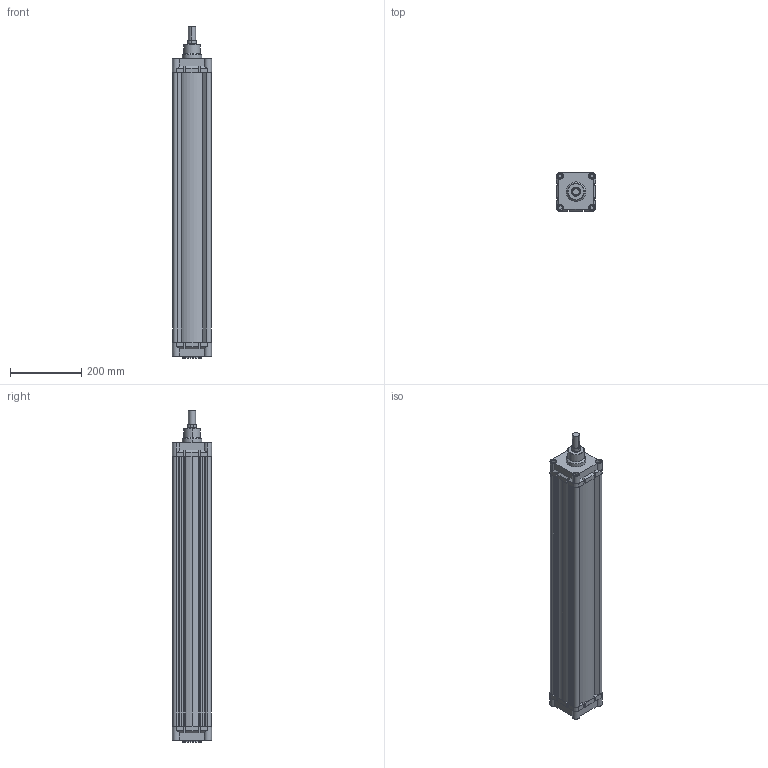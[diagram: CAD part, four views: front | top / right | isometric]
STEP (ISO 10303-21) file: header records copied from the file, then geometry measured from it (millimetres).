
FILE_DESCRIPTION (( 'STEP AP214' ), '1' );
FILE_NAME ('RIC100_700_MY_WEB.STEP', '2020-09-10T17:51:06', ( '' ), ( '' ), 'SwSTEP 2.0', 'SolidWorks 2018', '' );
FILE_SCHEMA (( 'AUTOMOTIVE_DESIGN' ));
Length unit declared in the file: millimetre
Products named in the file (6): rýc100arkakapak; RIC100_700_MY_WEB; RIC_100_BORU_WEB; RIC_100_ON_KAPAK_WEB; 25_K_MIL_WEB; M12 KAPAK CÝVATASI
Assembly tree (12 placements, depth 2):
  RIC100_700_MY_WEB
    RIC_100_ON_KAPAK_WEB
    RIC_100_BORU_WEB
    rýc100arkakapak
    M12 KAPAK CÝVATASI  x8
    25_K_MIL_WEB
Bounding box: 110 x 110 x 934 mm (x, y, z)
Volume: 3004092.2 mm3; surface area: 864514.3 mm2
Topology: 12 solids, 12 shells, 717 faces, 1793 edges, 1155 vertices
Faces by surface type: plane 362, cylinder 209, bspline 81, cone 59, torus 6
Entity records: 22464 total; most frequent: CARTESIAN_POINT 7800, ORIENTED_EDGE 2746, DIRECTION 2408, EDGE_CURVE 1373, VERTEX_POINT 903, LINE 826, VECTOR 826, AXIS2_PLACEMENT_3D 791
